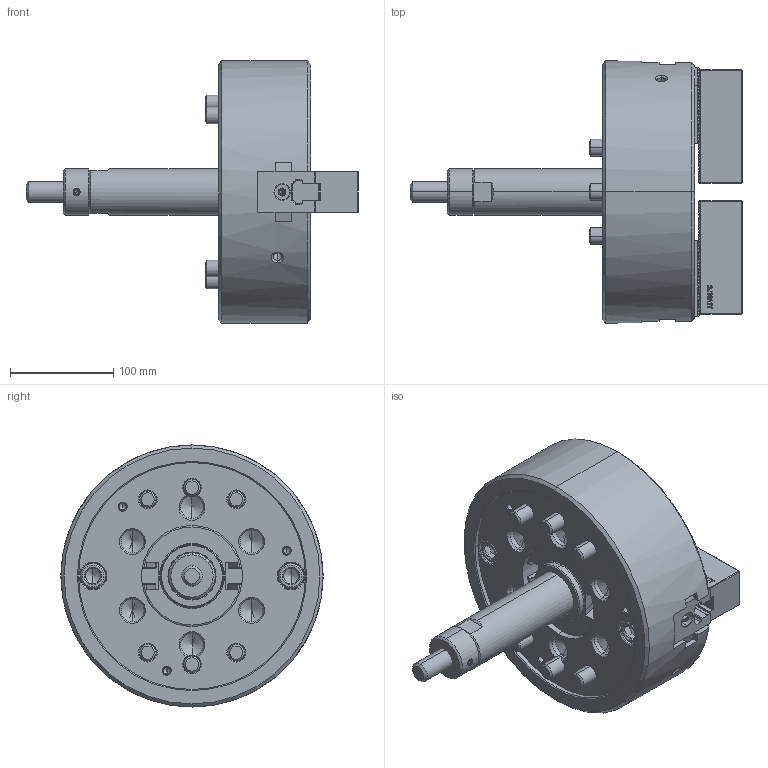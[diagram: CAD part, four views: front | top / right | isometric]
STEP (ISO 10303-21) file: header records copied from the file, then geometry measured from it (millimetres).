
FILE_DESCRIPTION (( 'STEP AP214' ), '1' );
FILE_NAME ('DT1_NLT10_OUTSIDE_VIEW_HOL.STEP', '2026-03-23T07:09:06', ( '' ), ( '' ), 'SwSTEP 2.0', 'SolidWorks 2022', '' );
FILE_SCHEMA (( 'AUTOMOTIVE_DESIGN' ));
Length unit declared in the file: millimetre
Products named in the file (11): DT1_NLT10_BASE^DT1_NLT10; DT1_NLT10_M12x35^DT1_NLT10; DT1_NLT10_TNUT^DT1_NLT10; DT1_NLT10_M16x85^DT1_NLT10; DT1_NLT10_COVER^DT1_NLT10; DT1_NLT10_DN^DT1_NLT10; DT1_NLT10_M5x12^DT1_NLT10; Copy of 61P335751^DT1_NLT10; DT1_NLT10_DRAWSCREW^DT1_NLT10; DT1_NLT10_OUTSIDE_VIEW_HOL; DT1_NLT10_SOFTJAW^DT1_NLT10
Assembly tree (23 placements, depth 2):
  DT1_NLT10_OUTSIDE_VIEW_HOL
    DT1_NLT10_SOFTJAW^DT1_NLT10  x2
    DT1_NLT10_TNUT^DT1_NLT10  x2
    DT1_NLT10_COVER^DT1_NLT10
    DT1_NLT10_DRAWSCREW^DT1_NLT10
    Copy of 61P335751^DT1_NLT10
    DT1_NLT10_DN^DT1_NLT10
    DT1_NLT10_BASE^DT1_NLT10
    DT1_NLT10_M16x85^DT1_NLT10  x6
    DT1_NLT10_M12x35^DT1_NLT10  x4
    DT1_NLT10_M5x12^DT1_NLT10  x4
Bounding box: 321.71 x 254 x 254 mm (x, y, z)
Volume: 4665623.9 mm3; surface area: 460989 mm2
Topology: 23 solids, 27 shells, 4045 faces, 11403 edges, 7445 vertices
Faces by surface type: plane 2379, cylinder 1069, cone 375, bspline 174, torus 44, sphere 4
Entity records: 100110 total; most frequent: CARTESIAN_POINT 28484, ORIENTED_EDGE 16280, DIRECTION 12781, EDGE_CURVE 8140, VECTOR 5695, LINE 5695, VERTEX_POINT 5336, AXIS2_PLACEMENT_3D 3543
